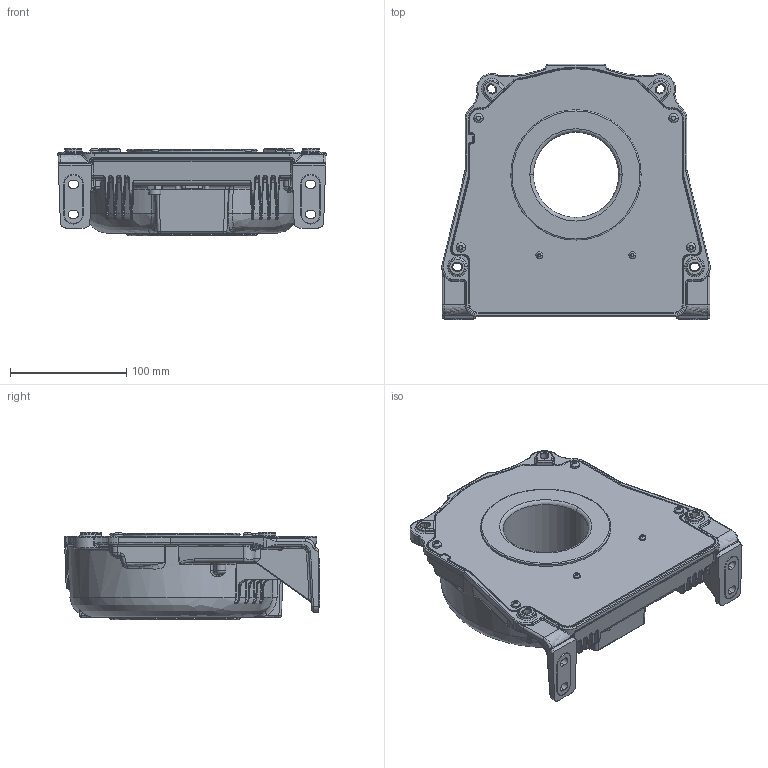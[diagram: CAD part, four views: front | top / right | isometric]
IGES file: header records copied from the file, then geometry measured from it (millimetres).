
Start section: Elysium IGES Interface
Global section: file name: C:\Users\pmo\Desktop\dfgdgfd.igs; native system: PTC Creo Elements/Direct Modeling 19.0B  21-Mar-2015; preprocessor: Creo Element/Direct IGES_3D V2.2; author: Unknown; organization: Unknown; date: 20170426.101845; units: millimetre
Bounding box: 230.47 x 219.32 x 75 mm (x, y, z)
Volume: 532354.1 mm3; surface area: 278548 mm2
Topology: 1 solids, 5 shells, 3059 faces, 7434 edges, 4360 vertices
Faces by surface type: bspline 3059
